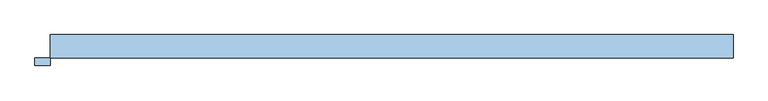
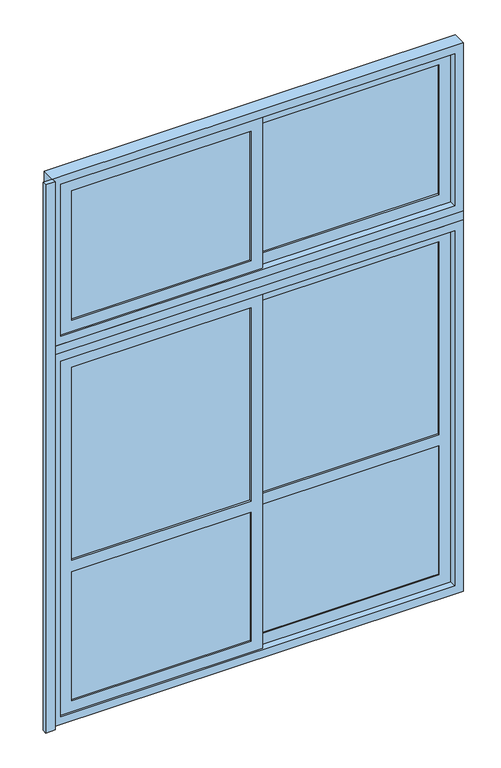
"""IFC4 building model written with IfcOpenShell, lengths in millimetres: window geometry, A7 Ventana_Corrediza_PC_2 hojas : A7.4 Ventana_Corrediza_PC_2 hojas 220x310."""

from ifc_helpers import new_model, si_unit, frame, origin, origin_with_axes, place, context, project, spatial, polyline, outline, extrude, source, transform, mapped, element, save


def window_b2479a94(model_context):
    return source(origin(), model_context, "Body", "SweptSolid", [
        extrude(outline(polyline([(-31.5, 28.0), (-992.0, 28.0), (-992.0, 44.0), (-31.5, 44.0), (-31.5, 28.0)])), frame((0.0, 0.0, 108.0), z_axis=(0.0, 0.0, 1.0), x_axis=(1.0, 0.0, 0.0)), (0.0, 0.0, 1.0), 728.0),
        extrude(outline(polyline([(992.0, 56.0), (31.5, 56.0), (31.5, 72.0), (992.0, 72.0), (992.0, 56.0)])), frame((0.0, 0.0, 108.0), z_axis=(0.0, 0.0, 1.0), x_axis=(1.0, 0.0, 0.0)), (0.0, 0.0, 1.0), 728.0),
        extrude(outline(polyline([(-31.5, 31.5769719), (-992.0, 31.5769719), (-992.0, 40.4230281), (-31.5, 40.4230281), (-31.5, 31.5769719)])), frame((0.0, 0.0, 2258.0), z_axis=(0.0, 0.0, 1.0), x_axis=(1.0, 0.0, 0.0)), (0.0, 0.0, 1.0), 734.0),
        extrude(outline(polyline([(-31.5, 31.5769719), (-992.0, 31.5769719), (-992.0, 40.4230281), (-31.5, 40.4230281), (-31.5, 31.5769719)])), frame((0.0, 0.0, 900.0), z_axis=(0.0, 0.0, 1.0), x_axis=(1.0, 0.0, 0.0)), (0.0, 0.0, 1.0), 1092.0),
        extrude(outline(polyline([(992.0, 59.5769719), (31.5, 59.5769719), (31.5, 68.4230281), (992.0, 68.4230281), (992.0, 59.5769719)])), frame((0.0, 0.0, 2258.0), z_axis=(0.0, 0.0, 1.0), x_axis=(1.0, 0.0, 0.0)), (0.0, 0.0, 1.0), 734.0),
        extrude(outline(polyline([(992.0, 59.5769719), (31.5, 59.5769719), (31.5, 68.4230281), (992.0, 68.4230281), (992.0, 59.5769719)])), frame((0.0, 0.0, 900.0), z_axis=(0.0, 0.0, 1.0), x_axis=(1.0, 0.0, 0.0)), (0.0, 0.0, 1.0), 1092.0),
        extrude(outline(polyline([(45.0, -1055.0), (45.0, 31.5), (2055.0, 31.5), (2055.0, -1055.0), (45.0, -1055.0)]), holes=[polyline([(900.0, -992.0), (1992.0, -992.0), (1992.0, -31.5), (900.0, -31.5), (900.0, -992.0)]), polyline([(108.0, -992.0), (836.0, -992.0), (836.0, -31.5), (108.0, -31.5), (108.0, -992.0)])]), frame((0.0, 22.0, 0.0), z_axis=(0.0, 1.0, 0.0), x_axis=(0.0, 0.0, 1.0)), (0.0, 0.0, 1.0), 28.0),
        extrude(outline(polyline([(3055.0, -1055.0), (2195.0, -1055.0), (2195.0, 31.5), (3055.0, 31.5), (3055.0, -1055.0)]), holes=[polyline([(2258.0, -992.0), (2992.0, -992.0), (2992.0, -31.5), (2258.0, -31.5), (2258.0, -992.0)])]), frame((0.0, 22.0, 0.0), z_axis=(0.0, 1.0, 0.0), x_axis=(0.0, 0.0, 1.0)), (0.0, 0.0, 1.0), 28.0),
        extrude(outline(polyline([(2055.0, 1055.0), (2055.0, -31.5), (45.0, -31.5), (45.0, 1055.0), (2055.0, 1055.0)]), holes=[polyline([(1992.0, 31.5), (1992.0, 992.0), (900.0, 992.0), (900.0, 31.5), (1992.0, 31.5)]), polyline([(836.0, 31.5), (836.0, 992.0), (108.0, 992.0), (108.0, 31.5), (836.0, 31.5)])]), frame((0.0, 50.0, 0.0), z_axis=(0.0, 1.0, 0.0), x_axis=(0.0, 0.0, 1.0)), (0.0, 0.0, 1.0), 28.0),
        extrude(outline(polyline([(2195.0, -31.5), (2195.0, 1055.0), (3055.0, 1055.0), (3055.0, -31.5), (2195.0, -31.5)]), holes=[polyline([(2992.0, 31.5), (2992.0, 992.0), (2258.0, 992.0), (2258.0, 31.5), (2992.0, 31.5)])]), frame((0.0, 50.0, 0.0), z_axis=(0.0, 1.0, 0.0), x_axis=(0.0, 0.0, 1.0)), (0.0, 0.0, 1.0), 28.0),
        extrude(outline(polyline([(2100.0, -1100.0), (0.0, -1100.0), (0.0, 1100.0), (2100.0, 1100.0), (2100.0, -1100.0)]), holes=[polyline([(2055.0, -1055.0), (2055.0, 1055.0), (45.0, 1055.0), (45.0, -1055.0), (2055.0, -1055.0)])]), frame((0.0, 12.5, 0.0), z_axis=(0.0, 1.0, 0.0), x_axis=(0.0, 0.0, 1.0)), (0.0, 0.0, 1.0), 75.0),
        extrude(outline(polyline([(3100.0, -1100.0), (2150.0, -1100.0), (2150.0, 1100.0), (3100.0, 1100.0), (3100.0, -1100.0)]), holes=[polyline([(3055.0, -1055.0), (3055.0, 1055.0), (2195.0, 1055.0), (2195.0, -1055.0), (3055.0, -1055.0)])]), frame((0.0, 12.5, 0.0), z_axis=(0.0, 1.0, 0.0), x_axis=(0.0, 0.0, 1.0)), (0.0, 0.0, 1.0), 75.0),
        extrude(outline(polyline([(1100.0, 12.5), (-1100.0, 12.5), (-1100.0, 87.5), (1100.0, 87.5), (1100.0, 12.5)])), frame((0.0, 0.0, 2100.0), z_axis=(0.0, 0.0, 1.0), x_axis=(1.0, 0.0, 0.0)), (0.0, 0.0, 1.0), 50.0),
        extrude(outline(polyline([(-1100.0, -12.5), (-1150.0, -12.5), (-1150.0, 12.5), (-1100.0, 12.5), (-1100.0, -12.5)])), origin_with_axes(), (0.0, 0.0, 1.0), 3100.0),
    ])


if __name__ == "__main__":
    model = new_model("IFC4")
    model_context = context("Model", 3, world=origin())
    ifc_project = project(units=[si_unit("LENGTHUNIT", "METRE", prefix="MILLI")], contexts=[model_context])
    site = spatial("IfcSite", under=ifc_project)
    building = spatial("IfcBuilding", under=site)
    placement = place(None, origin())
    window_shape = window_b2479a94(model_context)
    element("IfcWindow", 1, ObjectType="A7 Ventana_Corrediza_PC_2 hojas : A7.4 Ventana_Corrediza_PC_2 hojas 220x310", at=placement, inside=building, context=model_context, shape_type="MappedRepresentation", body=[
        mapped(window_shape, transform((0.0, 0.0, 0.0), x_axis=(1.0, 0.0, 0.0), y_axis=(0.0, 1.0, 0.0), z_axis=(0.0, 0.0, 1.0))),
    ])
    save(model, "model.ifc")
